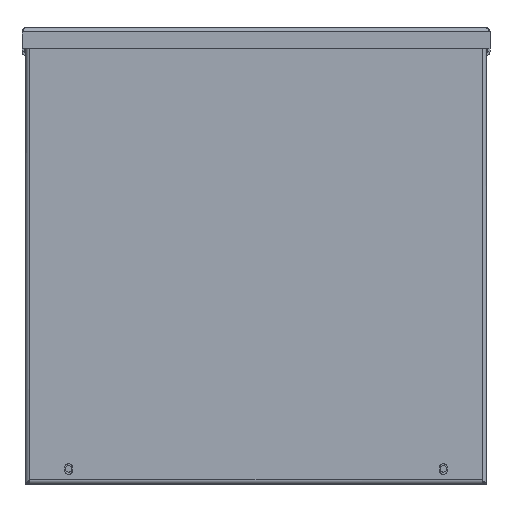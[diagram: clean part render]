
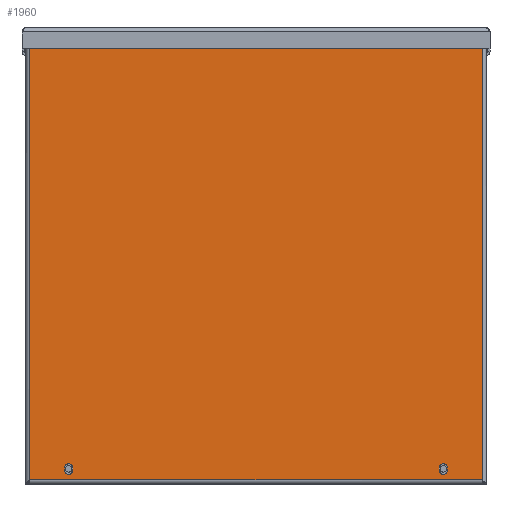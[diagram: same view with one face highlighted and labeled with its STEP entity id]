
A CAD part, top view. The second image highlights one B-rep face of the part: STEP entity #1960.
In plain terms, the highlighted planar face has unit normal (0, 0, 1).
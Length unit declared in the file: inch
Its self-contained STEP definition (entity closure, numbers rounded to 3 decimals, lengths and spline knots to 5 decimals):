
#30 = CARTESIAN_POINT ( 'NONE',  ( -5., -5.654, 0.055 ) ) ;
#127 = CARTESIAN_POINT ( 'NONE',  ( -6.035, -5.915, 0.055 ) ) ;
#139 = CARTESIAN_POINT ( 'NONE',  ( -5.1095, -5.592, 0.055 ) ) ;
#198 = ORIENTED_EDGE ( 'NONE', *, *, #3730, .T. ) ;
#300 = ORIENTED_EDGE ( 'NONE', *, *, #2049, .T. ) ;
#414 = PLANE ( 'NONE',  #8916 ) ;
#540 = LINE ( 'NONE', #6438, #3660 ) ;
#941 = CARTESIAN_POINT ( 'NONE',  ( -4.8905, -5.592, 0.055 ) ) ;
#996 = EDGE_LOOP ( 'NONE', ( #5534, #6471, #9302, #1242 ) ) ;
#1004 = DIRECTION ( 'NONE',  ( 0., 1., 0. ) ) ;
#1065 = FACE_BOUND ( 'NONE', #9788, .T. ) ;
#1202 = FACE_OUTER_BOUND ( 'NONE', #996, .T. ) ;
#1242 = ORIENTED_EDGE ( 'NONE', *, *, #8865, .T. ) ;
#1307 = EDGE_CURVE ( 'NONE', #9176, #6396, #8627, .T. ) ;
#1336 = CIRCLE ( 'NONE', #8996, 0.1095 ) ;
#1397 = CARTESIAN_POINT ( 'NONE',  ( 5.1095, -5.592, 0.055 ) ) ;
#1404 = ORIENTED_EDGE ( 'NONE', *, *, #1307, .T. ) ;
#1651 = CARTESIAN_POINT ( 'NONE',  ( 6.035, -5.915, 0.055 ) ) ;
#1691 = DIRECTION ( 'NONE',  ( 0., 0., -1. ) ) ;
#1733 = DIRECTION ( 'NONE',  ( -1., 0., 0. ) ) ;
#1823 = VERTEX_POINT ( 'NONE', #127 ) ;
#1854 = CARTESIAN_POINT ( 'NONE',  ( -6.035, 6.03, 0.055 ) ) ;
#1884 = EDGE_CURVE ( 'NONE', #2990, #5850, #9145, .T. ) ;
#1960 = ADVANCED_FACE ( 'NONE', ( #2719, #1065, #1202 ), #414, .F. ) ;
#1998 = EDGE_CURVE ( 'NONE', #2906, #7341, #10476, .T. ) ;
#2049 = EDGE_CURVE ( 'NONE', #5213, #2906, #1336, .T. ) ;
#2053 = CARTESIAN_POINT ( 'NONE',  ( 6.035, 6.03, 0.055 ) ) ;
#2072 = LINE ( 'NONE', #1854, #3828 ) ;
#2122 = LINE ( 'NONE', #4689, #10303 ) ;
#2208 = VERTEX_POINT ( 'NONE', #1651 ) ;
#2356 = CARTESIAN_POINT ( 'NONE',  ( -6.035, 6.03, 0.055 ) ) ;
#2507 = CARTESIAN_POINT ( 'NONE',  ( 5.1095, -5.654, 0.055 ) ) ;
#2625 = EDGE_CURVE ( 'NONE', #7341, #6374, #4970, .T. ) ;
#2719 = FACE_BOUND ( 'NONE', #7561, .T. ) ;
#2795 = VECTOR ( 'NONE', #10478, 39.37008 ) ;
#2829 = CARTESIAN_POINT ( 'NONE',  ( 5.1095, -5.592, 0.055 ) ) ;
#2906 = VERTEX_POINT ( 'NONE', #2829 ) ;
#2916 = CARTESIAN_POINT ( 'NONE',  ( -4.8905, -5.654, 0.055 ) ) ;
#2965 = DIRECTION ( 'NONE',  ( 0., 0., -1. ) ) ;
#2990 = VERTEX_POINT ( 'NONE', #10692 ) ;
#3357 = VECTOR ( 'NONE', #7661, 39.37008 ) ;
#3387 = EDGE_CURVE ( 'NONE', #6374, #5213, #8652, .T. ) ;
#3611 = AXIS2_PLACEMENT_3D ( 'NONE', #6632, #4251, #8452 ) ;
#3660 = VECTOR ( 'NONE', #8074, 39.37008 ) ;
#3730 = EDGE_CURVE ( 'NONE', #6396, #2990, #9974, .T. ) ;
#3828 = VECTOR ( 'NONE', #10301, 39.37008 ) ;
#3857 = DIRECTION ( 'NONE',  ( -1., 0., 0. ) ) ;
#4251 = DIRECTION ( 'NONE',  ( 0., 0., -1. ) ) ;
#4521 = EDGE_CURVE ( 'NONE', #8549, #6089, #540, .T. ) ;
#4643 = ORIENTED_EDGE ( 'NONE', *, *, #2625, .T. ) ;
#4686 = DIRECTION ( 'NONE',  ( 0., 1., 0. ) ) ;
#4689 = CARTESIAN_POINT ( 'NONE',  ( 6.035, -5.97146, 0.055 ) ) ;
#4729 = DIRECTION ( 'NONE',  ( 0., 1., 0. ) ) ;
#4910 = DIRECTION ( 'NONE',  ( 0., 0., -1. ) ) ;
#4970 = CIRCLE ( 'NONE', #3611, 0.1095 ) ;
#5078 = ORIENTED_EDGE ( 'NONE', *, *, #1884, .T. ) ;
#5213 = VERTEX_POINT ( 'NONE', #6722 ) ;
#5315 = ORIENTED_EDGE ( 'NONE', *, *, #5623, .T. ) ;
#5465 = DIRECTION ( 'NONE',  ( 0., 0., -1. ) ) ;
#5534 = ORIENTED_EDGE ( 'NONE', *, *, #7403, .T. ) ;
#5623 = EDGE_CURVE ( 'NONE', #5850, #9176, #10465, .T. ) ;
#5850 = VERTEX_POINT ( 'NONE', #941 ) ;
#6089 = VERTEX_POINT ( 'NONE', #2356 ) ;
#6374 = VERTEX_POINT ( 'NONE', #7014 ) ;
#6396 = VERTEX_POINT ( 'NONE', #9628 ) ;
#6438 = CARTESIAN_POINT ( 'NONE',  ( -6.15, 6.03, 0.055 ) ) ;
#6471 = ORIENTED_EDGE ( 'NONE', *, *, #7041, .T. ) ;
#6561 = LINE ( 'NONE', #6980, #2795 ) ;
#6632 = CARTESIAN_POINT ( 'NONE',  ( 5., -5.654, 0.055 ) ) ;
#6699 = CARTESIAN_POINT ( 'NONE',  ( -4.8905, -5.592, 0.055 ) ) ;
#6722 = CARTESIAN_POINT ( 'NONE',  ( 4.8905, -5.592, 0.055 ) ) ;
#6777 = VECTOR ( 'NONE', #4686, 39.37008 ) ;
#6980 = CARTESIAN_POINT ( 'NONE',  ( -6.09146, -5.915, 0.055 ) ) ;
#6992 = AXIS2_PLACEMENT_3D ( 'NONE', #10637, #5465, #10681 ) ;
#7014 = CARTESIAN_POINT ( 'NONE',  ( 4.8905, -5.654, 0.055 ) ) ;
#7041 = EDGE_CURVE ( 'NONE', #2208, #8549, #2122, .T. ) ;
#7266 = ORIENTED_EDGE ( 'NONE', *, *, #3387, .T. ) ;
#7341 = VERTEX_POINT ( 'NONE', #2507 ) ;
#7403 = EDGE_CURVE ( 'NONE', #1823, #2208, #6561, .T. ) ;
#7561 = EDGE_LOOP ( 'NONE', ( #198, #5078, #5315, #1404 ) ) ;
#7661 = DIRECTION ( 'NONE',  ( 0., -1., 0. ) ) ;
#8074 = DIRECTION ( 'NONE',  ( -1., 0., 0. ) ) ;
#8207 = VECTOR ( 'NONE', #10866, 39.37008 ) ;
#8321 = CARTESIAN_POINT ( 'NONE',  ( 5., -5.592, 0.055 ) ) ;
#8434 = ORIENTED_EDGE ( 'NONE', *, *, #1998, .T. ) ;
#8452 = DIRECTION ( 'NONE',  ( -1., 0., 0. ) ) ;
#8549 = VERTEX_POINT ( 'NONE', #2053 ) ;
#8627 = CIRCLE ( 'NONE', #9058, 0.1095 ) ;
#8652 = LINE ( 'NONE', #9778, #6777 ) ;
#8865 = EDGE_CURVE ( 'NONE', #6089, #1823, #2072, .T. ) ;
#8906 = VECTOR ( 'NONE', #1004, 39.37008 ) ;
#8916 = AXIS2_PLACEMENT_3D ( 'NONE', #8991, #2965, #3857 ) ;
#8991 = CARTESIAN_POINT ( 'NONE',  ( 6.15, 6.03, 0.055 ) ) ;
#8996 = AXIS2_PLACEMENT_3D ( 'NONE', #8321, #4910, #10904 ) ;
#9058 = AXIS2_PLACEMENT_3D ( 'NONE', #30, #1691, #1733 ) ;
#9145 = CIRCLE ( 'NONE', #6992, 0.1095 ) ;
#9176 = VERTEX_POINT ( 'NONE', #2916 ) ;
#9302 = ORIENTED_EDGE ( 'NONE', *, *, #4521, .T. ) ;
#9628 = CARTESIAN_POINT ( 'NONE',  ( -5.1095, -5.654, 0.055 ) ) ;
#9778 = CARTESIAN_POINT ( 'NONE',  ( 4.8905, -5.592, 0.055 ) ) ;
#9788 = EDGE_LOOP ( 'NONE', ( #7266, #300, #8434, #4643 ) ) ;
#9974 = LINE ( 'NONE', #139, #8906 ) ;
#10301 = DIRECTION ( 'NONE',  ( 0., -1., 0. ) ) ;
#10303 = VECTOR ( 'NONE', #4729, 39.37008 ) ;
#10465 = LINE ( 'NONE', #6699, #3357 ) ;
#10476 = LINE ( 'NONE', #1397, #8207 ) ;
#10478 = DIRECTION ( 'NONE',  ( 1., 0., 0. ) ) ;
#10637 = CARTESIAN_POINT ( 'NONE',  ( -5., -5.592, 0.055 ) ) ;
#10681 = DIRECTION ( 'NONE',  ( -1., 0., 0. ) ) ;
#10692 = CARTESIAN_POINT ( 'NONE',  ( -5.1095, -5.592, 0.055 ) ) ;
#10866 = DIRECTION ( 'NONE',  ( 0., -1., 0. ) ) ;
#10904 = DIRECTION ( 'NONE',  ( -1., 0., 0. ) ) ;
